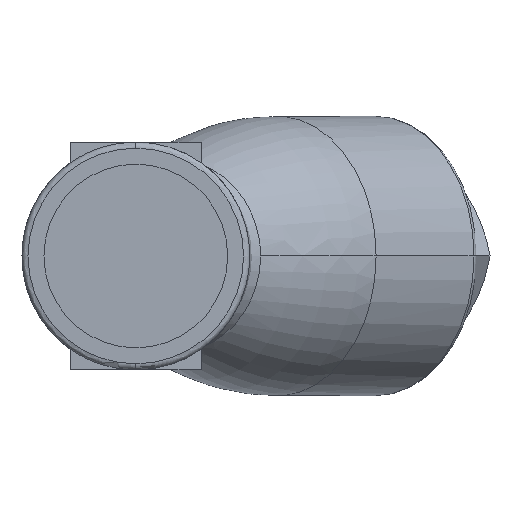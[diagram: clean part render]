
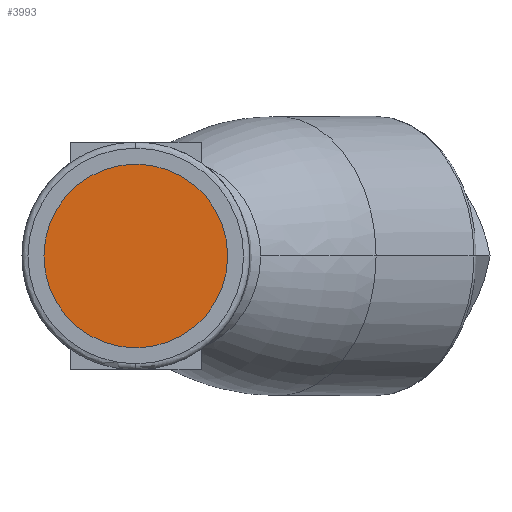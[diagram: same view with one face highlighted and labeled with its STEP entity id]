
A CAD part, left-side view. The second image highlights one B-rep face of the part: STEP entity #3993.
In plain terms, the highlighted planar face has unit normal (-1, 0, 0).
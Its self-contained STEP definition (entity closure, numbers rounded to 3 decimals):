
#64 = DIRECTION ( 'NONE',  ( 0., 0., 1. ) ) ;
#456 = CARTESIAN_POINT ( 'NONE',  ( -44., 30.25, 0. ) ) ;
#505 = FACE_OUTER_BOUND ( 'NONE', #1804, .T. ) ;
#687 = CIRCLE ( 'NONE', #4160, 30.25 ) ;
#839 = DIRECTION ( 'NONE',  ( 0., 0., 1. ) ) ;
#1120 = VERTEX_POINT ( 'NONE', #1450 ) ;
#1450 = CARTESIAN_POINT ( 'NONE',  ( -44., 0., 30.25 ) ) ;
#1550 = PLANE ( 'NONE',  #2502 ) ;
#1804 = EDGE_LOOP ( 'NONE', ( #2099, #4091 ) ) ;
#2041 = CARTESIAN_POINT ( 'NONE',  ( -44., 0., 0. ) ) ;
#2099 = ORIENTED_EDGE ( 'NONE', *, *, #3579, .T. ) ;
#2214 = CARTESIAN_POINT ( 'NONE',  ( -44., 0., 0. ) ) ;
#2502 = AXIS2_PLACEMENT_3D ( 'NONE', #456, #4438, #839 ) ;
#3031 = EDGE_CURVE ( 'NONE', #4422, #1120, #687, .T. ) ;
#3105 = DIRECTION ( 'NONE',  ( -1., 0., 0. ) ) ;
#3301 = DIRECTION ( 'NONE',  ( -1., 0., 0. ) ) ;
#3479 = DIRECTION ( 'NONE',  ( 0., 0., 1. ) ) ;
#3579 = EDGE_CURVE ( 'NONE', #1120, #4422, #3791, .T. ) ;
#3791 = CIRCLE ( 'NONE', #4631, 30.25 ) ;
#3993 = ADVANCED_FACE ( 'NONE', ( #505 ), #1550, .T. ) ;
#4045 = CARTESIAN_POINT ( 'NONE',  ( -44., 0., -30.25 ) ) ;
#4091 = ORIENTED_EDGE ( 'NONE', *, *, #3031, .T. ) ;
#4160 = AXIS2_PLACEMENT_3D ( 'NONE', #2041, #3105, #3479 ) ;
#4422 = VERTEX_POINT ( 'NONE', #4045 ) ;
#4438 = DIRECTION ( 'NONE',  ( -1., 0., 0. ) ) ;
#4631 = AXIS2_PLACEMENT_3D ( 'NONE', #2214, #3301, #64 ) ;
